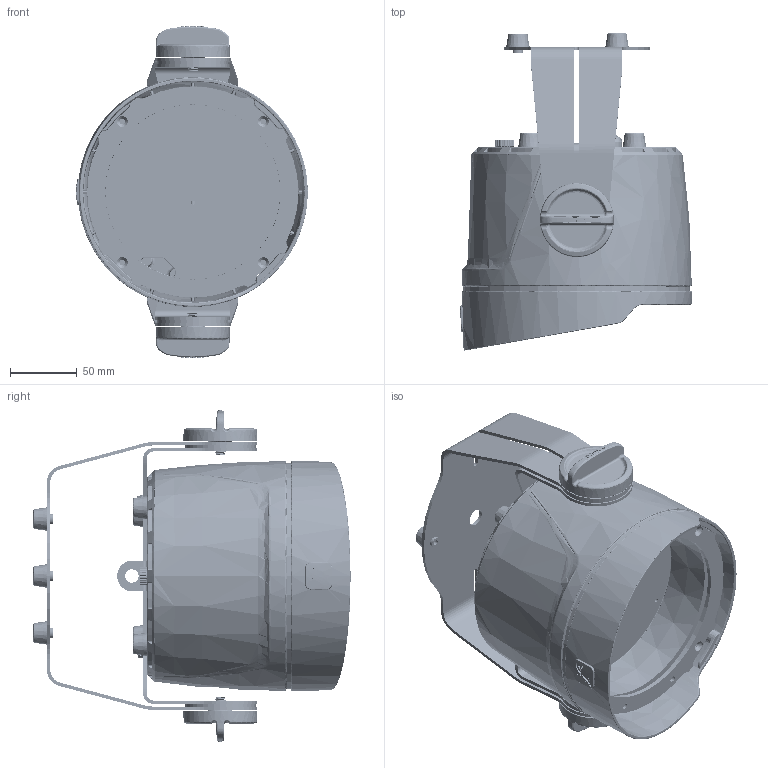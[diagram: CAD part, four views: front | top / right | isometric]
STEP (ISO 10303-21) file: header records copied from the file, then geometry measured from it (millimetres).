
FILE_DESCRIPTION(('HOOPS Exchange Step'),'2;1');
FILE_NAME('E:\cdb\hoops_acs\acs\9788\78523\014385-4-Light Fixture.step','2024-07-01T11:16:48+02:00',('caddok'),('Unknown organisation'),'HOOPS Exchange 2024.0','HOOPS Exchange','Unknown authorisation');
FILE_SCHEMA( ('AP242_MANAGED_MODEL_BASED_3D_ENGINEERING_MIM_LF {1 0 10303 442 1 1 4 }') );
Length unit declared in the file: millimetre
Products named in the file (2): Standard; 014385-4-Light Fixture
Assembly tree (1 placements, depth 2):
  014385-4-Light Fixture
    Standard
Bounding box: 172.91 x 236.76 x 247.91 mm (x, y, z)
Volume: 895833 mm3; surface area: 495148.4 mm2
Topology: 28 solids, 30 shells, 5626 faces, 14818 edges, 9250 vertices
Faces by surface type: bspline 3183, plane 1062, cylinder 932, cone 411, extrusion 38
Full cylindrical faces by diameter (mm): 1.6 x6, 2 x3, 2.3 x2, 2.4 x1, 3 x1, 3.3 x57, 3.5 x2, 4 x13, 4.2 x8, 4.5 x8, 5.3 x1, 5.65 x1, 6 x14, 6.5 x1, 7.5 x7, 7.9 x3, 8 x10, 8.5 x2, 9 x2, 9.5 x1, 9.7 x1, 9.8 x1, 10 x2, 10.3 x1, 10.5 x1, 10.55 x1, 10.7 x6, 11 x3, 11.5 x4, 11.65 x5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
Entity records: 474802 total; most frequent: CARTESIAN_POINT 363567, ORIENTED_EDGE 29406, EDGE_CURVE 14703, DIRECTION 13167, VERTEX_POINT 9250, B_SPLINE_CURVE_WITH_KNOTS 8853, EDGE_LOOP 5895, FACE_BOUND 5895
